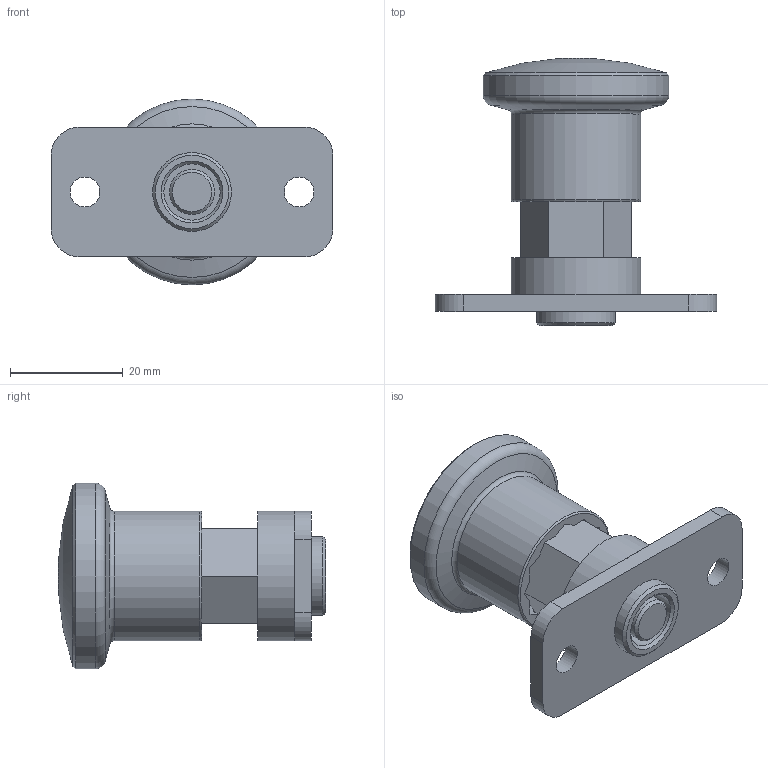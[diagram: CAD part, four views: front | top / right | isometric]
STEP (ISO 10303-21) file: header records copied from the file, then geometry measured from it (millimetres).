
FILE_DESCRIPTION( ( 'STEP AP203' ), '1' );
FILE_NAME( 'C:/Temp/Ganter_Step_05_03_2020/data/3_1/gn822_9/gn822_9_c/Stainless Steel-Mini indexing plunger GN 822.9-8-10-C (activated).stp', '2020-03-12T09:25:03', ( 'License CC BY-ND 4.0' ), ( 'CADENAS' ), ' ', 'PARTsolutions', ' ' );
FILE_SCHEMA( ( 'CONFIG_CONTROL_DESIGN' ) );
Length unit declared in the file: millimetre
Products named in the file (3): Stainless Steel-Mini indexing plunger GN 822.9-8-10-C (activated); _Stainless Steel-Mini indexing plunger GN 822.9-8-10-C (deactivated)_1; _Stainless Steel-Mini indexing plunger GN 822.9-8-10-C (deactivated)_2
Assembly tree (2 placements, depth 2):
  Stainless Steel-Mini indexing plunger GN 822.9-8-10-C (activated)
    _Stainless Steel-Mini indexing plunger GN 822.9-8-10-C (deactivated)_1
    _Stainless Steel-Mini indexing plunger GN 822.9-8-10-C (deactivated)_2
Bounding box: 50 x 47.42 x 33 mm (x, y, z)
Volume: 19037 mm3; surface area: 11341 mm2
Topology: 2 solids, 2 shells, 81 faces, 190 edges, 120 vertices
Faces by surface type: plane 47, cylinder 16, cone 14, torus 3, sphere 1
Full cylindrical faces by diameter (mm): 5.3 x2, 7.5 x2, 8 x1, 10 x2, 14 x1, 17 x1, 23 x2, 33 x1
Entity records: 2368 total; most frequent: CARTESIAN_POINT 502, DIRECTION 362, ORIENTED_EDGE 326, EDGE_CURVE 163, AXIS2_PLACEMENT_3D 133, EDGE_LOOP 118, VERTEX_POINT 117, FACE_OUTER_BOUND 97
